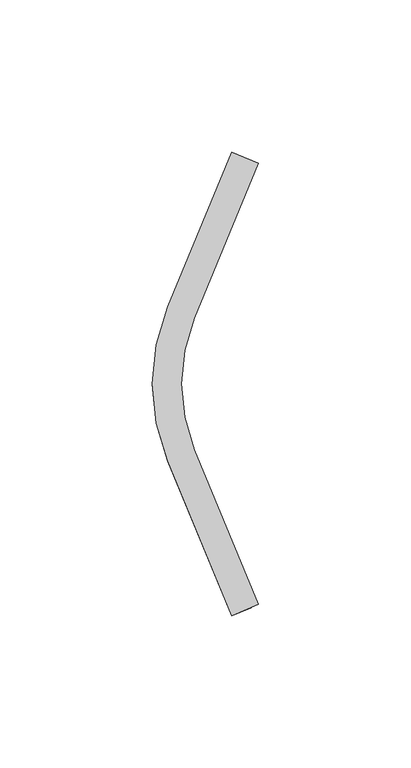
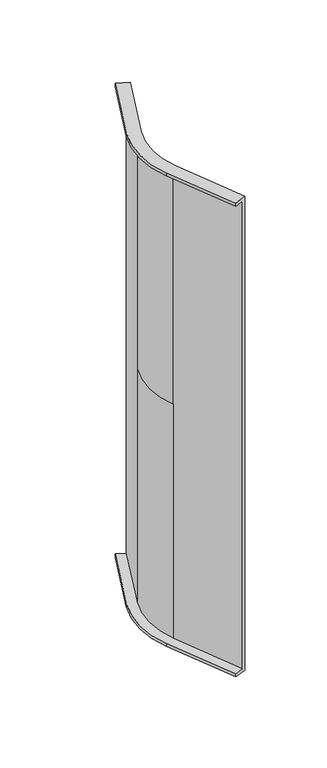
"""IFC4 building model written with IfcOpenShell, lengths in millimetres: cable carrier fitting geometry, CCT_Hyperline_FBTR-IRS45-CVR Крышка на вертикальный угол 45° внутренний (вверх) для оптического лотка : Крышка на вертикальный угол 45° внутренний (вверх) для оптического лотка."""

from ifc_helpers import new_model, si_unit, frame, origin, place, context, project, spatial, polyline, circle_curve, source, transform, mapped, element, save
from ifc_brep_helpers import plane_surface, cylinder_surface, revolved_surface, advanced_brep


def cable_carrier_fitting_10d31a7a(model_context):
    return source(origin(), model_context, "Body", "AdvancedBrep", [
        advanced_brep(
        [(117.653346, 73.3916968, 180.0), (111.1861893, 76.0704808, 180.0), (111.1861893, 76.0704808, 182.54), (120.0, 72.4196809, 182.54), (120.0, 72.4196809, -182.54), (111.1861893, 76.0704808, -182.54), (111.1861893, 76.0704808, -180.0), (117.653346, 73.3916968, -180.0), (90.1386005, 25.2571065, -180.0), (90.1386005, -25.2571065, -180.0), (111.1861893, -76.0704808, -180.0), (117.653346, -73.3916968, -180.0), (96.6057572, -22.5783225, -180.0), (96.6057572, 22.5783225, -180.0), (90.1386005, 25.2571065, -182.54), (98.9524112, 21.6063066, -182.54), (98.9524112, -21.6063066, -182.54), (120.0, -72.4196809, -182.54), (111.1861893, -76.0704808, -182.54), (90.1386005, -25.2571065, -182.54), (98.9524112, 21.6063066, 182.54), (98.9524112, 21.6063066, 0.0), (96.6057572, 22.5783225, 0.0), (96.6057572, 22.5783225, 180.0), (120.0, -72.4196809, 182.54), (111.1861893, -76.0704808, 182.54), (111.1861893, -76.0704808, 180.0), (117.653346, -73.3916968, 180.0), (98.9524112, -21.6063066, 0.0), (96.6057572, -22.5783225, 0.0), (98.9524112, -21.6063066, 182.54), (96.6057572, -22.5783225, 180.0), (90.1386005, -25.2571065, 180.0), (90.1386005, 25.2571065, 180.0), (90.1386005, 25.2571065, 182.54), (90.1386005, -25.2571065, 182.54)],
        [
            (0, 1),
            (1, 2),
            (2, 3),
            (3, 4),
            (4, 5),
            (5, 6),
            (6, 7),
            (7, 0),
            (6, 8),
            (8, 9, circle_curve(frame((151.1146496, 0.0, -180.0), z_axis=(0.0, 0.0, 1.0), x_axis=(-0.9238795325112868, 0.38268343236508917, 0.0)), 66.0)),
            (9, 10),
            (10, 11),
            (11, 12),
            (12, 13, circle_curve(frame((151.1146496, 0.0, -180.0), z_axis=(0.0, 0.0, -1.0), x_axis=(-0.9238795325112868, 0.38268343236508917, 0.0)), 59.0)),
            (13, 7),
            (5, 14),
            (14, 8),
            (4, 15),
            (15, 16, circle_curve(frame((151.1146496, 0.0, -182.54), z_axis=(0.0, 0.0, 1.0), x_axis=(-0.9238795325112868, 0.38268343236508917, 0.0)), 56.46)),
            (16, 17),
            (17, 18),
            (18, 19),
            (19, 14, circle_curve(frame((151.1146496, 0.0, -182.54), z_axis=(0.0, 0.0, -1.0), x_axis=(-0.9238795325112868, 0.38268343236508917, 0.0)), 66.0)),
            (3, 20),
            (20, 21),
            (21, 15),
            (13, 22),
            (22, 23),
            (23, 0),
            (10, 18),
            (17, 24),
            (24, 25),
            (25, 26),
            (26, 27),
            (27, 11),
            (19, 9),
            (21, 28, circle_curve(frame((151.1146496, 0.0, 0.0), z_axis=(0.0, 0.0, 1.0), x_axis=(-0.9238795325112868, 0.38268343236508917, 0.0)), 56.46)),
            (28, 16),
            (12, 29),
            (29, 22, circle_curve(frame((151.1146496, 0.0, 0.0), z_axis=(0.0, 0.0, -1.0), x_axis=(-0.9238795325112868, 0.38268343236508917, 0.0)), 59.0)),
            (28, 30),
            (30, 24),
            (27, 31),
            (31, 29),
            (23, 31, circle_curve(frame((151.1146496, 0.0, 180.0), z_axis=(0.0, 0.0, 1.0), x_axis=(-0.9238795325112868, 0.38268343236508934, 0.0)), 59.0)),
            (26, 32),
            (32, 33, circle_curve(frame((151.1146496, 0.0, 180.0), z_axis=(0.0, 0.0, -1.0), x_axis=(-0.9238795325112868, 0.38268343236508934, 0.0)), 66.0)),
            (33, 1),
            (33, 34),
            (34, 2),
            (34, 35, circle_curve(frame((151.1146496, 0.0, 182.54), z_axis=(0.0, 0.0, 1.0), x_axis=(-0.9238795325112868, 0.38268343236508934, 0.0)), 66.0)),
            (35, 25),
            (30, 20, circle_curve(frame((151.1146496, 0.0, 182.54), z_axis=(0.0, 0.0, -1.0), x_axis=(-0.9238795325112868, 0.38268343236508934, 0.0)), 56.46)),
            (32, 35),
        ],
        [
            plane_surface(frame((115.8055869, 74.1570637, -55.0), z_axis=(0.38268343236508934, 0.923879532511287, 0.0), x_axis=(0.0, 0.0, 1.0))),
            plane_surface(frame((111.1861893, 76.0704808, -180.0), z_axis=(0.0, 0.0, 1.0000000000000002), x_axis=(-0.38268343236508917, -0.9238795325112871, 0.0))),
            plane_surface(frame((111.1861893, 76.0704808, -182.54), z_axis=(-0.923879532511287, 0.3826834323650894, 0.0), x_axis=(-0.3826834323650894, -0.923879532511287, 0.0))),
            plane_surface(frame((120.0, 72.4196809, -182.54), z_axis=(0.0, 0.0, -1.0), x_axis=(-0.3826834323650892, -0.923879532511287, 0.0))),
            plane_surface(frame((120.0, 72.4196809, 0.0), z_axis=(0.923879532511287, -0.3826834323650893, 0.0), x_axis=(-0.3826834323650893, -0.923879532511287, 0.0))),
            plane_surface(frame((117.653346, 73.3916968, -180.0), z_axis=(-0.9238795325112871, 0.38268343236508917, 0.0), x_axis=(-0.38268343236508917, -0.9238795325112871, 0.0))),
            plane_surface(frame((115.8055869, -74.1570637, -55.0), z_axis=(0.38268343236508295, -0.9238795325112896, 0.0), x_axis=(0.0, 0.0, 1.0))),
            cylinder_surface(frame((151.1146496, 0.0, -55.0), z_axis=(0.0, 0.0, 1.0), x_axis=(-0.9238795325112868, 0.38268343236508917, 0.0)), 66.0),
            revolved_surface(polyline([(98.95241119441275, 21.606306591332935, 0.0), (98.95241119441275, 21.606306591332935, -182.54)]), (151.1146496, 0.0, -55.0), (0.0, 0.0, 1.0)),
            cylinder_surface(frame((151.1146496, 0.0, -55.0), z_axis=(0.0, 0.0, 1.0), x_axis=(-0.9238795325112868, 0.38268343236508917, 0.0)), 59.0),
            plane_surface(frame((90.1386005, -25.2571065, -182.54), z_axis=(-0.9238795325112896, -0.38268343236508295, 0.0), x_axis=(0.38268343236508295, -0.9238795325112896, 0.0))),
            plane_surface(frame((98.9524112, -21.6063066, 0.0), z_axis=(0.9238795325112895, 0.3826834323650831, 0.0), x_axis=(0.3826834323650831, -0.9238795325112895, 0.0))),
            plane_surface(frame((96.6057572, -22.5783225, -180.0), z_axis=(-0.9238795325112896, -0.38268343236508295, 0.0), x_axis=(0.38268343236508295, -0.9238795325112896, 0.0))),
            plane_surface(frame((117.653346, 73.3916968, 180.0), z_axis=(0.0, 0.0, -1.0), x_axis=(-0.38268343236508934, -0.923879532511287, 0.0))),
            plane_surface(frame((111.1861893, 76.0704808, 180.0), z_axis=(-0.923879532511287, 0.38268343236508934, 0.0), x_axis=(-0.38268343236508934, -0.923879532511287, 0.0))),
            plane_surface(frame((111.1861893, 76.0704808, 182.54), z_axis=(0.0, 0.0, 1.0), x_axis=(-0.3826834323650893, -0.923879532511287, 0.0))),
            cylinder_surface(frame((151.1146496, 0.0, 60.0), z_axis=(0.0, 0.0, 1.0), x_axis=(-0.9238795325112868, 0.38268343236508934, 0.0)), 66.0),
            revolved_surface(polyline([(98.95241119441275, 21.606306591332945, 182.54), (98.95241119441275, 21.606306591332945, 0.0)]), (151.1146496, 0.0, 60.0), (0.0, 0.0, 1.0)),
            cylinder_surface(frame((151.1146496, 0.0, 60.0), z_axis=(0.0, 0.0, 1.0), x_axis=(-0.9238795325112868, 0.38268343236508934, 0.0)), 59.0),
            plane_surface(frame((90.1386005, -25.2571065, 180.0), z_axis=(-0.9238795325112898, -0.3826834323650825, 0.0), x_axis=(0.3826834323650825, -0.9238795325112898, 0.0))),
        ],
        [
            (0, [[1, 2, 3, 4, 5, 6, 7, 8]]),
            (1, [[-7, 9, 10, 11, 12, 13, 14, 15]]),
            (2, [[-6, 16, 17, -9]]),
            (3, [[-5, 18, 19, 20, 21, 22, 23, -16]]),
            (4, [[-4, 24, 25, 26, -18]]),
            (5, [[-8, -15, 27, 28, 29]]),
            (6, [[-12, 30, -21, 31, 32, 33, 34, 35]]),
            (7, [[-10, -17, -23, 36]]),
            (8, [[-19, -26, 37, 38]]),
            (9, [[-14, 39, 40, -27]]),
            (10, [[-11, -36, -22, -30]]),
            (11, [[-31, -20, -38, 41, 42]]),
            (12, [[-13, -35, 43, 44, -39]]),
            (13, [[-1, -29, 45, -43, -34, 46, 47, 48]]),
            (14, [[-2, -48, 49, 50]]),
            (15, [[-3, -50, 51, 52, -32, -42, 53, -24]]),
            (16, [[-47, 54, -51, -49]]),
            (17, [[-53, -41, -37, -25]]),
            (18, [[-45, -28, -40, -44]]),
            (19, [[-46, -33, -52, -54]]),
        ],
    ),
    ])


if __name__ == "__main__":
    model = new_model("IFC4")
    model_context = context("Model", 3, world=origin())
    ifc_project = project(units=[si_unit("LENGTHUNIT", "METRE", prefix="MILLI")], contexts=[model_context])
    site = spatial("IfcSite", under=ifc_project)
    building = spatial("IfcBuilding", under=site)
    placement = place(None, origin())
    cable_carrier_fitting_shape = cable_carrier_fitting_10d31a7a(model_context)
    element("IfcCableCarrierFitting", 1, ObjectType="CCT_Hyperline_FBTR-IRS45-CVR Крышка на вертикальный угол 45° внутренний (вверх) для оптического лотка : Крышка на вертикальный угол 45° внутренний (вверх) для оптического лотка", at=placement, inside=building, context=model_context, shape_type="MappedRepresentation", body=[
        mapped(cable_carrier_fitting_shape, transform((0.0, 0.0, 0.0), x_axis=(1.0, 0.0, 0.0), y_axis=(0.0, 1.0, 0.0), z_axis=(0.0, 0.0, 1.0))),
    ])
    save(model, "model.ifc")
